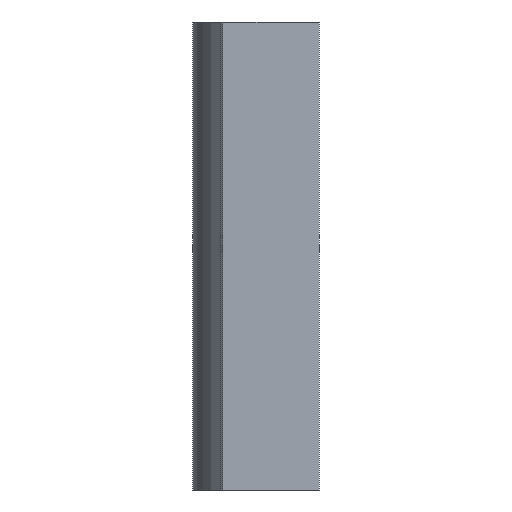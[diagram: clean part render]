
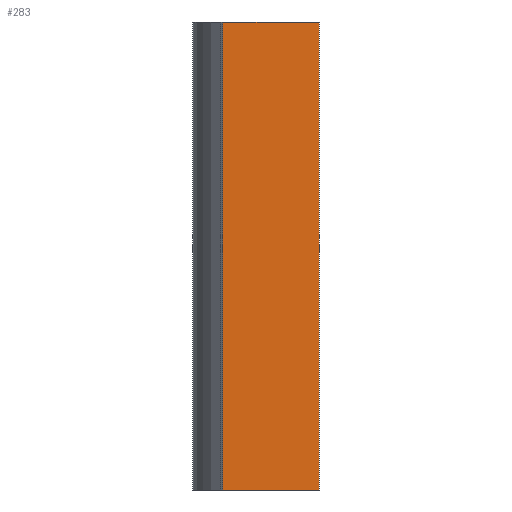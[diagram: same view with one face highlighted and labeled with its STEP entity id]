
A CAD part, left-side view. The second image highlights one B-rep face of the part: STEP entity #283.
In plain terms, the highlighted planar face has unit normal (-1, 0, 0).
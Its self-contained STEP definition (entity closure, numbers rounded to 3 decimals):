
#3 = CARTESIAN_POINT ( 'NONE',  ( 0., 0., 0. ) ) ;
#43 = VERTEX_POINT ( 'NONE', #230 ) ;
#65 = EDGE_CURVE ( 'NONE', #846, #257, #597, .T. ) ;
#220 = LINE ( 'NONE', #441, #318 ) ;
#222 = LINE ( 'NONE', #369, #341 ) ;
#224 = CARTESIAN_POINT ( 'NONE',  ( 0., 0., -7.75 ) ) ;
#230 = CARTESIAN_POINT ( 'NONE',  ( 0., 0., 0. ) ) ;
#257 = VERTEX_POINT ( 'NONE', #800 ) ;
#265 = FACE_OUTER_BOUND ( 'NONE', #907, .T. ) ;
#283 = ADVANCED_FACE ( 'NONE', ( #265 ), #507, .F. ) ;
#318 = VECTOR ( 'NONE', #451, 1000. ) ;
#341 = VECTOR ( 'NONE', #816, 1000. ) ;
#353 = VECTOR ( 'NONE', #822, 1000. ) ;
#369 = CARTESIAN_POINT ( 'NONE',  ( 0., 1.6, -7.75 ) ) ;
#378 = LINE ( 'NONE', #3, #858 ) ;
#431 = EDGE_CURVE ( 'NONE', #257, #789, #222, .T. ) ;
#439 = EDGE_CURVE ( 'NONE', #43, #789, #378, .T. ) ;
#441 = CARTESIAN_POINT ( 'NONE',  ( 0., 0., -7.75 ) ) ;
#449 = EDGE_CURVE ( 'NONE', #846, #43, #220, .T. ) ;
#451 = DIRECTION ( 'NONE',  ( 0., 0., 1. ) ) ;
#507 = PLANE ( 'NONE',  #922 ) ;
#511 = CARTESIAN_POINT ( 'NONE',  ( 0., 1.6, 0. ) ) ;
#514 = DIRECTION ( 'NONE',  ( 0., 1., 0. ) ) ;
#582 = ORIENTED_EDGE ( 'NONE', *, *, #449, .T. ) ;
#597 = LINE ( 'NONE', #224, #353 ) ;
#631 = CARTESIAN_POINT ( 'NONE',  ( 0., 0., -7.75 ) ) ;
#728 = DIRECTION ( 'NONE',  ( 1., 0., 0. ) ) ;
#750 = CARTESIAN_POINT ( 'NONE',  ( 0., 0., -7.75 ) ) ;
#789 = VERTEX_POINT ( 'NONE', #511 ) ;
#797 = DIRECTION ( 'NONE',  ( 0., 0., -1. ) ) ;
#800 = CARTESIAN_POINT ( 'NONE',  ( 0., 1.6, -7.75 ) ) ;
#816 = DIRECTION ( 'NONE',  ( 0., 0., 1. ) ) ;
#822 = DIRECTION ( 'NONE',  ( 0., 1., 0. ) ) ;
#846 = VERTEX_POINT ( 'NONE', #750 ) ;
#849 = ORIENTED_EDGE ( 'NONE', *, *, #439, .T. ) ;
#855 = ORIENTED_EDGE ( 'NONE', *, *, #65, .F. ) ;
#858 = VECTOR ( 'NONE', #514, 1000. ) ;
#860 = ORIENTED_EDGE ( 'NONE', *, *, #431, .F. ) ;
#907 = EDGE_LOOP ( 'NONE', ( #849, #860, #855, #582 ) ) ;
#922 = AXIS2_PLACEMENT_3D ( 'NONE', #631, #728, #797 ) ;
